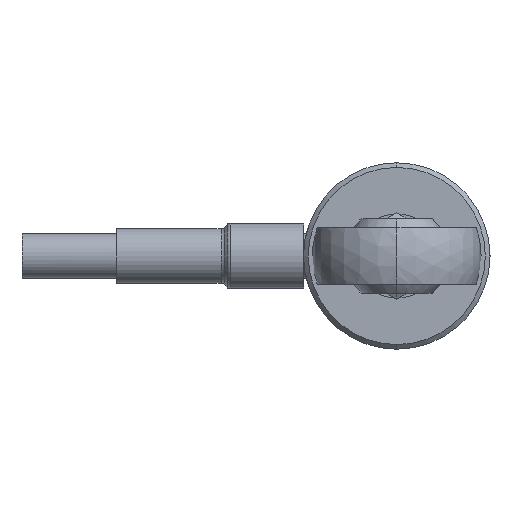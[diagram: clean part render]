
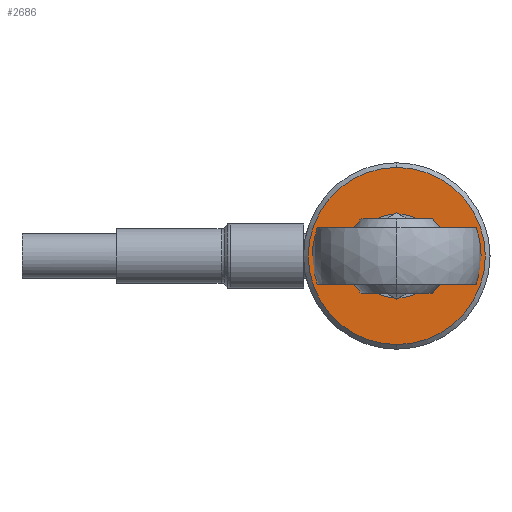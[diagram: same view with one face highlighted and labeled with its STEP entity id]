
A CAD part, left-side view. The second image highlights one B-rep face of the part: STEP entity #2686.
In plain terms, the highlighted planar face has unit normal (-1, 0, 0).
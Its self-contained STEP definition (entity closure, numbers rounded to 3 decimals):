
#18 = EDGE_CURVE ( 'NONE', #830, #2565, #3830, .T. ) ;
#142 = DIRECTION ( 'NONE',  ( -1., 0., 0. ) ) ;
#275 = VERTEX_POINT ( 'NONE', #2629 ) ;
#450 = DIRECTION ( 'NONE',  ( 0., 0., -1. ) ) ;
#479 = DIRECTION ( 'NONE',  ( 0., 0., -1. ) ) ;
#682 = CARTESIAN_POINT ( 'NONE',  ( 0., 0., -4.5 ) ) ;
#830 = VERTEX_POINT ( 'NONE', #682 ) ;
#865 = ORIENTED_EDGE ( 'NONE', *, *, #1534, .T. ) ;
#933 = AXIS2_PLACEMENT_3D ( 'NONE', #1115, #2450, #4114 ) ;
#1115 = CARTESIAN_POINT ( 'NONE',  ( 0., 0., 0. ) ) ;
#1121 = DIRECTION ( 'NONE',  ( -1., 0., 0. ) ) ;
#1181 = CARTESIAN_POINT ( 'NONE',  ( 0., 0., 0. ) ) ;
#1253 = DIRECTION ( 'NONE',  ( -1., 0., 0. ) ) ;
#1403 = DIRECTION ( 'NONE',  ( -1., 0., 0. ) ) ;
#1534 = EDGE_CURVE ( 'NONE', #2978, #275, #2720, .T. ) ;
#1631 = AXIS2_PLACEMENT_3D ( 'NONE', #3067, #142, #479 ) ;
#1650 = EDGE_LOOP ( 'NONE', ( #865, #2253 ) ) ;
#1710 = AXIS2_PLACEMENT_3D ( 'NONE', #3382, #1403, #450 ) ;
#2253 = ORIENTED_EDGE ( 'NONE', *, *, #4201, .T. ) ;
#2305 = CARTESIAN_POINT ( 'NONE',  ( 0., 0., -9.45 ) ) ;
#2450 = DIRECTION ( 'NONE',  ( 1., 0., 0. ) ) ;
#2476 = AXIS2_PLACEMENT_3D ( 'NONE', #1181, #1253, #3483 ) ;
#2521 = EDGE_CURVE ( 'NONE', #2565, #830, #3847, .T. ) ;
#2565 = VERTEX_POINT ( 'NONE', #4000 ) ;
#2629 = CARTESIAN_POINT ( 'NONE',  ( 0., 0., 9.45 ) ) ;
#2686 = ADVANCED_FACE ( 'NONE', ( #3281, #4098 ), #3044, .F. ) ;
#2720 = CIRCLE ( 'NONE', #2476, 9.45 ) ;
#2779 = DIRECTION ( 'NONE',  ( 0., 0., -1. ) ) ;
#2898 = CIRCLE ( 'NONE', #1631, 9.45 ) ;
#2978 = VERTEX_POINT ( 'NONE', #2305 ) ;
#3041 = ORIENTED_EDGE ( 'NONE', *, *, #18, .F. ) ;
#3044 = PLANE ( 'NONE',  #933 ) ;
#3067 = CARTESIAN_POINT ( 'NONE',  ( 0., 0., 0. ) ) ;
#3148 = CARTESIAN_POINT ( 'NONE',  ( 0., 0., 0. ) ) ;
#3281 = FACE_BOUND ( 'NONE', #3502, .T. ) ;
#3382 = CARTESIAN_POINT ( 'NONE',  ( 0., 0., 0. ) ) ;
#3483 = DIRECTION ( 'NONE',  ( 0., 0., -1. ) ) ;
#3502 = EDGE_LOOP ( 'NONE', ( #3041, #4187 ) ) ;
#3624 = AXIS2_PLACEMENT_3D ( 'NONE', #3148, #1121, #2779 ) ;
#3830 = CIRCLE ( 'NONE', #3624, 4.5 ) ;
#3847 = CIRCLE ( 'NONE', #1710, 4.5 ) ;
#4000 = CARTESIAN_POINT ( 'NONE',  ( 0., 0., 4.5 ) ) ;
#4098 = FACE_OUTER_BOUND ( 'NONE', #1650, .T. ) ;
#4114 = DIRECTION ( 'NONE',  ( 0., 0., -1. ) ) ;
#4187 = ORIENTED_EDGE ( 'NONE', *, *, #2521, .F. ) ;
#4201 = EDGE_CURVE ( 'NONE', #275, #2978, #2898, .T. ) ;
